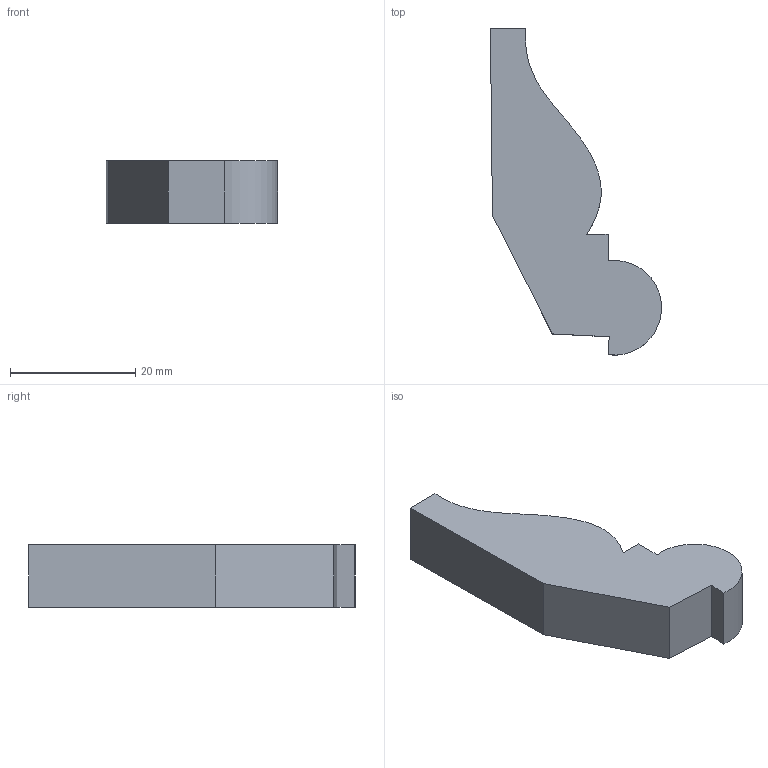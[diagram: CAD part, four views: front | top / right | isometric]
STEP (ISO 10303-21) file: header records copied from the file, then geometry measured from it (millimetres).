
FILE_DESCRIPTION (( 'STEP AP203' ), '1' );
FILE_NAME ('Ab025FJ.STEP', '2024-02-16T17:40:47', ( '' ), ( '' ), 'SwSTEP 2.0', 'SolidWorks 2020', '' );
FILE_SCHEMA (( 'CONFIG_CONTROL_DESIGN' ));
Length unit declared in the file: millimetre
Products named in the file (1): Ab025FJ
Bounding box: 27.36 x 52.14 x 10 mm (x, y, z)
Volume: 7100.6 mm3; surface area: 2809.1 mm2
Topology: 1 solids, 1 shells, 37 faces, 105 edges, 70 vertices
Faces by surface type: plane 36, cylinder 1
Entity records: 1258 total; most frequent: CARTESIAN_POINT 213, ORIENTED_EDGE 210, DIRECTION 183, EDGE_CURVE 105, LINE 103, VECTOR 103, VERTEX_POINT 70, AXIS2_PLACEMENT_3D 40
